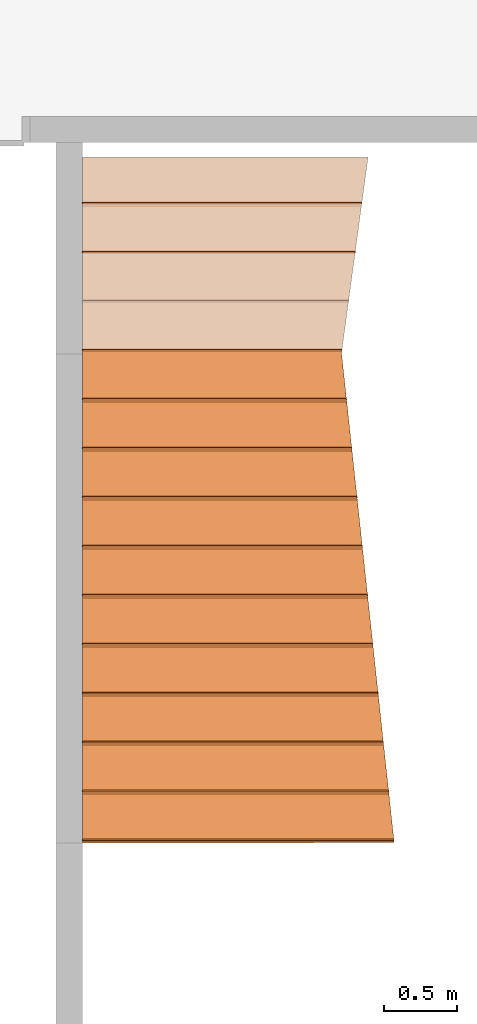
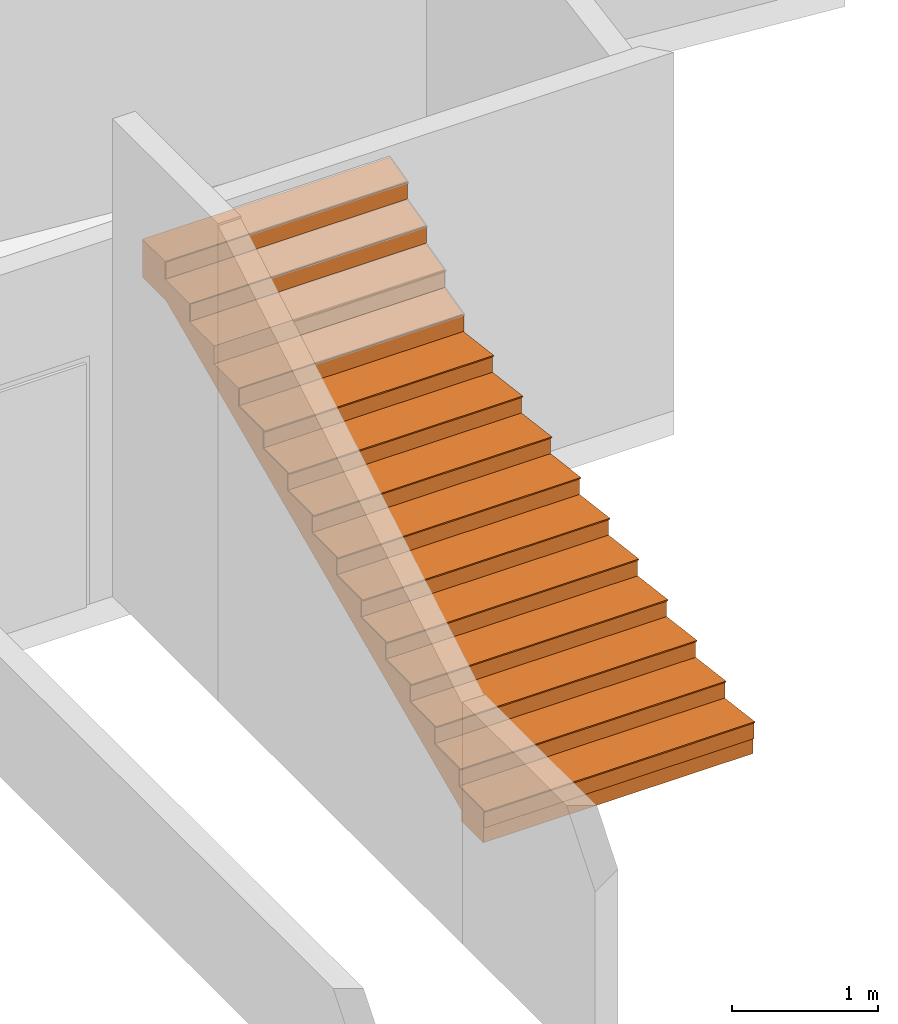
# One storey, part 39 of 41: 24 proxies, 1 element without a shape of its own.
"""IFC2X3 building model written with IfcOpenShell, lengths in millimetres."""

from ifc_helpers import new_model, entity, si_unit, converted_unit, derived_unit, money_unit, direction, frame, origin_with_axes, place, context, subcontext, project, spatial, faceted_brep, material, type_object, element, aggregate, save


model = new_model("IFC2X3")

# Units and contexts
model_context = context("Model", 3, precision=0.01, world=origin_with_axes(), true_north=direction((0.0, 1.0)))
body_context = subcontext(model_context, "Body", "Model", "MODEL_VIEW")
ifc_project = project(units=[si_unit("LENGTHUNIT", "METRE", prefix="MILLI"), si_unit("AREAUNIT", "SQUARE_METRE"), si_unit("VOLUMEUNIT", "CUBIC_METRE"), converted_unit("PLANEANGLEUNIT", "DEGREE", entity("IfcPlaneAngleMeasure", 0.0174532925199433), si_unit("PLANEANGLEUNIT", "RADIAN"), dimensions=[0, 0, 0, 0, 0, 0, 0]), money_unit("USD"), converted_unit("TIMEUNIT", "Year", entity("IfcTimeMeasure", 31557600.0), si_unit("TIMEUNIT", "SECOND"), dimensions=[0, 0, 1, 0, 0, 0, 0]), si_unit("MASSUNIT", "GRAM", prefix="KILO"), si_unit("THERMODYNAMICTEMPERATUREUNIT", "DEGREE_CELSIUS"), si_unit("LUMINOUSINTENSITYUNIT", "LUMEN"), si_unit("ENERGYUNIT", "JOULE", prefix="MEGA"), derived_unit("THERMALCONDUCTANCEUNIT", [(si_unit("POWERUNIT", "WATT"), 1), (si_unit("LENGTHUNIT", "METRE"), -1), (si_unit("THERMODYNAMICTEMPERATUREUNIT", "KELVIN"), -1)]), derived_unit("SPECIFICHEATCAPACITYUNIT", [(si_unit("ENERGYUNIT", "JOULE"), 1), (si_unit("MASSUNIT", "GRAM", prefix="KILO"), -1), (si_unit("THERMODYNAMICTEMPERATUREUNIT", "KELVIN"), -1)]), derived_unit("MASSDENSITYUNIT", [(si_unit("MASSUNIT", "GRAM", prefix="KILO"), 1), (si_unit("VOLUMEUNIT", "CUBIC_METRE"), -1)])], contexts=[model_context])

# Site, building, storey
site_placement = place(None, origin_with_axes())
site = spatial("IfcSite", under=ifc_project, at=site_placement, Name="Site", CompositionType="ELEMENT")
building_placement = place(site_placement, origin_with_axes())
building = spatial("IfcBuilding", under=site, at=building_placement, Name="Bâtiment", CompositionType="ELEMENT")
storey_placement = place(building_placement, origin_with_axes())
storey = spatial("IfcBuildingStorey", under=building, at=storey_placement, Name="sousol", CompositionType="ELEMENT", Elevation=0.0)

# Stair, proxies
stair_placement = place(storey_placement, frame((2242056.657618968, -637489.6648349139, 899.9999999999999), z_axis=(0.0, 0.0, 1.0), x_axis=(1.0, 0.0, 0.0)))
stair = element("IfcStair", 1, at=stair_placement, inside=storey, Name="ESC-021", ShapeType="NOTDEFINED")
ifc_material_1 = material(Name="Cloison 274992075")
building_element_proxy_type = type_object("IfcBuildingElementProxyType", Name="IfcBuildingElementProxy", PredefinedType="NOTDEFINED")
proxy_1_placement = place(stair_placement, frame((1.13686837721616e-10, 0.0, 0.0), z_axis=(0.0, 0.0, 1.0), x_axis=(1.0, 0.0, 0.0)))
proxy_1 = element("IfcBuildingElementProxy", 2, at=proxy_1_placement, type_object=building_element_proxy_type, material=ifc_material_1, Name="VOLEE-023", context=body_context, shape_type="Brep", body=[
    faceted_brep([(0.0, 4364.285714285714, 1764.493136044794), (0.0, 4376.610600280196, 1770.0), (1914.695672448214, 4376.610600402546, 1770.0), (1913.025304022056, 4364.285714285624, 1764.493136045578), (0.0, 4699.999999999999, 1770.0), (0.0, 4280.357142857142, 1726.993136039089), (0.0, 4196.428571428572, 1689.493136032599), (0.0, 4112.5, 1651.993136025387), (0.0, 4028.571428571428, 1614.493136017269), (0.0, 3944.642857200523, 1576.993136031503), (0.0, 3860.714285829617, 1539.493136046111), (0.0, 3776.785714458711, 1501.993136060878), (0.0, 3692.857143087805, 1464.493136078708), (0.0, 3608.928571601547, 1426.993136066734), (0.0, 3525.000000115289, 1389.493136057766), (0.0, 3441.071428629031, 1351.993136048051), (0.0, 3357.142857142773, 1314.493136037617), (0.0, 3273.214285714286, 1276.993136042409), (0.0, 3189.285714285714, 1239.493136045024), (0.0, 3105.357142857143, 1201.993136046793), (-1.014743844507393e-10, 3021.428571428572, 1164.493136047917), (-1.052491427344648e-10, 2937.5, 1126.993136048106), (-1.092459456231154e-10, 2853.571428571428, 1089.493136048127), (-1.13242748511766e-10, 2769.642857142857, 1051.993136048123), (-1.172395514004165e-10, 2685.714285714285, 1014.493136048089), (-1.212363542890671e-10, 2601.785714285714, 976.993136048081), (-1.252331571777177e-10, 2517.857142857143, 939.4931360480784), (-1.292299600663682e-10, 2433.928571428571, 901.993136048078), (-1.332267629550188e-10, 2350.0, 864.4931360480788), (-1.370015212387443e-10, 2266.071428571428, 826.9931360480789), (-1.412203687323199e-10, 2182.142857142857, 789.4931360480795), (-1.449951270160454e-10, 2098.214285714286, 751.9931360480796), (-1.48991929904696e-10, 2014.285714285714, 714.4931360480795), (-1.529887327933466e-10, 1930.357142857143, 676.9931360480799), (-1.569855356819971e-10, 1846.428571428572, 639.4931360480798), (-1.609823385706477e-10, 1762.5, 601.9931360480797), (-1.649791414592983e-10, 1678.571428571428, 564.4931360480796), (-1.689759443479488e-10, 1594.642857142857, 526.9931360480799), (-1.727507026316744e-10, 1510.714285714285, 489.4931360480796), (-1.7696955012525e-10, 1426.785714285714, 451.9931360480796), (-1.807443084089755e-10, 1342.857142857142, 414.4931360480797), (-1.849631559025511e-10, 1258.928571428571, 376.9931360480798), (-1.887379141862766e-10, 1175.0, 339.4931360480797), (-1.927347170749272e-10, 1091.071428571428, 301.9931360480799), (-1.967315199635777e-10, 1007.142857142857, 264.4931360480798), (-2.007283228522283e-10, 923.2142857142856, 226.9931360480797), (-2.047251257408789e-10, 839.285714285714, 189.4931360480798), (-2.087219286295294e-10, 755.3571428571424, 151.9931360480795), (-2.1271873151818e-10, 671.4285714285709, 114.4931360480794), (-2.167155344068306e-10, 587.4999999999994, 76.99313604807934), (-2.204902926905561e-10, 503.5714285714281, 39.49313604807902), (-2.247091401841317e-10, 419.6428571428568, 1.993136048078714), (-2.284838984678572e-10, 335.7142857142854, -35.50686395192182), (-2.273736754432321e-10, 325.1, -40.24941714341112), (-2.273736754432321e-10, 325.1, -129.9999999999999), (-2.273736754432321e-10, 25.10000000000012, -129.9999999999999), (-2.273736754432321e-10, 25.10000000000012, 140.0000000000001), (-2.113864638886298e-10, 360.8142857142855, 140.0000000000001), (-2.113864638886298e-10, 360.8142857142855, 290.0000000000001), (-1.956212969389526e-10, 696.528571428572, 290.0000000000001), (-1.956212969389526e-10, 696.528571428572, 439.9999999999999), (-1.796340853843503e-10, 1032.242857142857, 439.9999999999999), (-1.796340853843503e-10, 1032.242857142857, 589.9999999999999), (-1.638689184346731e-10, 1367.957142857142, 589.9999999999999), (-1.638689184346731e-10, 1367.957142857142, 740.0), (-1.478817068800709e-10, 1703.671428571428, 740.0), (-1.478817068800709e-10, 1703.671428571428, 889.9999999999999), (-1.318944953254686e-10, 2039.385714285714, 889.9999999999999), (-1.318944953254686e-10, 2039.385714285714, 1040.0), (-1.159072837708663e-10, 2375.099999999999, 1040.0), (-1.159072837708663e-10, 2375.099999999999, 1190.0), (-1.001421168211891e-10, 2710.814285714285, 1190.0), (-1.001421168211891e-10, 2710.814285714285, 1340.0), (0.0, 3046.528571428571, 1340.0), (0.0, 3046.528571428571, 1490.0), (0.0, 3382.242857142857, 1490.0), (0.0, 3382.242857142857, 1640.0), (0.0, 3717.957142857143, 1640.0), (0.0, 3717.957142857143, 1790.0), (0.0, 4053.671428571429, 1790.0), (0.0, 4053.671428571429, 1940.0), (0.0, 4389.385714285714, 1940.0), (0.0, 4389.385714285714, 2090.0), (0.0, 4699.999999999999, 2090.0), (0.0, 4699.999999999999, 1914.493136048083), (1958.524053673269, 4699.999999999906, 1770.0), (1958.524053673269, 4699.999999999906, 1914.493136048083), (1958.524053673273, 4699.999999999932, 2090.0), (1916.427060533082, 4389.385714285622, 2090.0), (1916.427060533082, 4389.385714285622, 1940.0), (1870.928309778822, 4053.671428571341, 1940.0), (1870.928309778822, 4053.671428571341, 1790.0), (1825.429558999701, 3717.957142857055, 1790.0), (1825.429558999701, 3717.957142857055, 1640.0), (1779.930803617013, 3382.242857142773, 1640.0), (1779.930803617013, 3382.242857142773, 1490.0), (1776.529044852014, 3357.142857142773, 1490.0), (1776.529062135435, 3357.142857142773, 1314.493136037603), (1787.903753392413, 3441.071428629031, 1351.993136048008), (1799.278442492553, 3525.000000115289, 1389.493136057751), (1810.653131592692, 3608.928571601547, 1426.993136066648), (1822.02781147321, 3692.857143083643, 1464.493136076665), (1833.402499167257, 3776.785714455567, 1501.993136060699), (1844.777186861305, 3860.714285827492, 1539.493136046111), (1856.151874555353, 3944.642857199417, 1576.993136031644), (1867.526553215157, 4028.571428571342, 1614.493136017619), (1878.901240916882, 4112.499999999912, 1651.993136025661), (1890.275928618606, 4196.428571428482, 1689.493136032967), (1901.650616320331, 4280.357142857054, 1726.993136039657), (1785.552685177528, 3273.214285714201, 1276.993136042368), (1794.576308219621, 3189.285714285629, 1239.493136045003), (1803.599931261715, 3105.357142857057, 1201.993136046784), (1812.623542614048, 3021.428571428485, 1164.493136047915), (1821.647165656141, 2937.499999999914, 1126.993136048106), (1830.670788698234, 2853.571428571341, 1089.493136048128), (1839.694411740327, 2769.642857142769, 1051.993136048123), (1848.71803478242, 2685.714285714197, 1014.493136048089), (1857.741660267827, 2601.785714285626, 976.993136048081), (1866.76528330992, 2517.857142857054, 939.4931360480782), (1875.788906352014, 2433.928571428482, 901.993136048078), (1884.812526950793, 2349.99999999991, 864.4931360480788), (1893.836149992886, 2266.071428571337, 826.9931360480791), (1902.859773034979, 2182.142857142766, 789.4931360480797), (1911.883396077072, 2098.214285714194, 751.9931360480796), (1920.907019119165, 2014.285714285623, 714.4931360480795), (1929.930649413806, 1930.357142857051, 676.9931360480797), (1938.954272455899, 1846.428571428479, 639.4931360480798), (1947.977895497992, 1762.499999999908, 601.9931360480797), (1957.001511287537, 1678.571428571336, 564.49313604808), (1966.02513432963, 1594.642857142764, 526.9931360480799), (1975.048757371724, 1510.714285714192, 489.4931360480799), (1984.072380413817, 1426.78571428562, 451.9931360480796), (1993.09600345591, 1342.857142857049, 414.4931360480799), (2002.119626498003, 1258.928571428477, 376.9931360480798), (2011.143249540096, 1174.999999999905, 339.4931360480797), (2020.166872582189, 1091.071428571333, 301.9931360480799), (2029.190506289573, 1007.142857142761, 264.4931360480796), (2038.214129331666, 923.2142857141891, 226.9931360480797), (2047.23775237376, 839.2857142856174, 189.4931360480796), (2056.261375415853, 755.3571428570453, 151.9931360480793), (2065.284989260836, 671.4285714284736, 114.493136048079), (2074.308612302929, 587.4999999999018, 76.99313604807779), (2083.332235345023, 503.5714285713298, 39.49313604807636), (2092.355858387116, 419.6428571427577, 1.993136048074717), (2101.379479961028, 335.714285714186, -35.50686395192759), (2102.520681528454, 325.0999999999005, -40.24941714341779), (2102.520681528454, 325.0999999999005, -129.9999999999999), (2134.775332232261, 25.09999999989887, -129.9999999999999), (2134.775332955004, 25.09999999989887, 140.0000000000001), (2098.680841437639, 360.814285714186, 140.0000000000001), (2098.680841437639, 360.814285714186, 290.0000000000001), (2062.586348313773, 696.5285714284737, 290.0000000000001), (2062.586348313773, 696.5285714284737, 439.9999999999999), (2026.491855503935, 1032.242857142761, 439.9999999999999), (2026.491855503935, 1032.242857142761, 589.9999999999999), (1990.397364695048, 1367.957142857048, 589.9999999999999), (1990.397364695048, 1367.957142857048, 740.0), (1954.302871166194, 1703.671428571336, 740.0), (1954.302871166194, 1703.671428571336, 889.9999999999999), (1918.208380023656, 2039.385714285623, 889.9999999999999), (1918.208380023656, 2039.385714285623, 1040.0), (1882.113887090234, 2375.099999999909, 1040.0), (1882.113887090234, 2375.099999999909, 1190.0), (1846.019396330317, 2710.814285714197, 1190.0), (1846.019396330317, 2710.814285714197, 1340.0), (1809.924903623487, 3046.528571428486, 1340.0), (1809.924903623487, 3046.528571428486, 1490.0)], [[[0, 1, 2, 3]], [[4, 1, 0, 5, 6, 7, 8, 9, 10, 11, 12, 13, 14, 15, 16, 17, 18, 19, 20, 21, 22, 23, 24, 25, 26, 27, 28, 29, 30, 31, 32, 33, 34, 35, 36, 37, 38, 39, 40, 41, 42, 43, 44, 45, 46, 47, 48, 49, 50, 51, 52, 53, 54, 55, 56, 57, 58, 59, 60, 61, 62, 63, 64, 65, 66, 67, 68, 69, 70, 71, 72, 73, 74, 75, 76, 77, 78, 79, 80, 81, 82, 83, 84]], [[2, 1, 4, 85]], [[2, 85, 86, 87, 88, 89, 90, 91, 92, 93, 94, 95, 96, 97, 98, 99, 100, 101, 102, 103, 104, 105, 106, 107, 108, 3]], [[5, 0, 3, 108]], [[6, 5, 108, 107]], [[7, 6, 107, 106]], [[8, 7, 106, 105]], [[9, 8, 105, 104]], [[10, 9, 104, 103]], [[11, 10, 103, 102]], [[12, 11, 102, 101]], [[13, 12, 101, 100]], [[14, 13, 100, 99]], [[15, 14, 99, 98]], [[16, 15, 98, 97]], [[17, 16, 97, 109]], [[18, 17, 109, 110]], [[19, 18, 110, 111]], [[20, 19, 111, 112]], [[21, 20, 112, 113]], [[22, 21, 113, 114]], [[23, 22, 114, 115]], [[24, 23, 115, 116]], [[25, 24, 116, 117]], [[26, 25, 117, 118]], [[27, 26, 118, 119]], [[28, 27, 119, 120]], [[29, 28, 120, 121]], [[30, 29, 121, 122]], [[31, 30, 122, 123]], [[32, 31, 123, 124]], [[33, 32, 124, 125]], [[34, 33, 125, 126]], [[35, 34, 126, 127]], [[36, 35, 127, 128]], [[37, 36, 128, 129]], [[38, 37, 129, 130]], [[39, 38, 130, 131]], [[40, 39, 131, 132]], [[41, 40, 132, 133]], [[42, 41, 133, 134]], [[43, 42, 134, 135]], [[44, 43, 135, 136]], [[45, 44, 136, 137]], [[46, 45, 137, 138]], [[47, 46, 138, 139]], [[48, 47, 139, 140]], [[49, 48, 140, 141]], [[50, 49, 141, 142]], [[51, 50, 142, 143]], [[52, 51, 143, 144]], [[145, 53, 52, 144]], [[53, 145, 146, 54]], [[54, 146, 147, 55]], [[56, 55, 147, 148]], [[149, 57, 56, 148]], [[150, 58, 57, 149]], [[151, 59, 58, 150]], [[152, 60, 59, 151]], [[153, 61, 60, 152]], [[154, 62, 61, 153]], [[155, 63, 62, 154]], [[156, 64, 63, 155]], [[157, 65, 64, 156]], [[158, 66, 65, 157]], [[159, 67, 66, 158]], [[160, 68, 67, 159]], [[161, 69, 68, 160]], [[162, 70, 69, 161]], [[163, 71, 70, 162]], [[164, 72, 71, 163]], [[165, 73, 72, 164]], [[166, 74, 73, 165]], [[74, 166, 96, 95, 75]], [[94, 76, 75, 95]], [[77, 76, 94, 93]], [[92, 78, 77, 93]], [[79, 78, 92, 91]], [[90, 80, 79, 91]], [[81, 80, 90, 89]], [[88, 82, 81, 89]], [[88, 87, 83, 82]], [[83, 87, 86, 84]], [[85, 4, 84, 86]], [[149, 148, 147, 146, 145, 144, 143, 142, 141, 140, 139, 138, 137, 136, 135, 134, 133, 132, 131, 130, 129, 128, 127, 126, 125, 124, 123, 122, 121, 120, 119, 118, 117, 116, 115, 114, 113, 112, 111, 110, 109, 97, 96, 166, 165, 164, 163, 162, 161, 160, 159, 158, 157, 156, 155, 154, 153, 152, 151, 150]]]),
])
ifc_material_2 = material(Name="Lame d'air 275581351")
proxy_2_placement = place(stair_placement, frame((699.9999999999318, 0.0, 139.9999999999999), z_axis=(0.0, 0.0, 1.0), x_axis=(1.0, 0.0, 0.0)))
proxy_2 = element("IfcBuildingElementProxy", 3, at=proxy_2_placement, type_object=building_element_proxy_type, material=ifc_material_2, Name="C-MARCHE-350", context=body_context, shape_type="Brep", body=[
    faceted_brep([(1435.861239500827, 15.0, 0.0), (1434.78608441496, 25.0, 0.0), (-700.0, 25.0, 0.0), (-700.0, 15.0, 0.0), (1435.861239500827, 15.00000000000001, -140.0), (1434.78608441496, 25.00000000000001, -140.0), (-700.0, 25.00000000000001, -140.0), (-700.0, 15.00000000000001, -140.0)], [[[0, 1, 2, 3]], [[0, 4, 5, 1]], [[1, 5, 6, 2]], [[3, 2, 6, 7]], [[4, 0, 3, 7]], [[5, 4, 7, 6]]]),
])
proxy_3_placement = place(stair_placement, frame((699.9999999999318, 335.7142857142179, 290.0000000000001), z_axis=(0.0, 0.0, 1.0), x_axis=(1.0, 0.0, 0.0)))
proxy_3 = element("IfcBuildingElementProxy", 4, at=proxy_3_placement, type_object=building_element_proxy_type, material=ifc_material_2, Name="C-MARCHE-351", context=body_context, shape_type="Brep", body=[
    faceted_brep([(1399.766747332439, 15.00000000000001, 0.0), (1398.691592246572, 25.00000000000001, 0.0), (-700.0, 24.99999999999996, 0.0), (-700.0, 14.99999999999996, 0.0), (1399.766747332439, 15.00000000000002, -140.0), (1398.691592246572, 25.00000000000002, -140.0), (-700.0, 24.99999999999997, -140.0), (-700.0, 14.99999999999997, -140.0)], [[[0, 1, 2, 3]], [[0, 4, 5, 1]], [[1, 5, 6, 2]], [[3, 2, 6, 7]], [[4, 0, 3, 7]], [[5, 4, 7, 6]]]),
])
proxy_4_placement = place(stair_placement, frame((699.9999999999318, 671.4285714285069, 439.9999999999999), z_axis=(0.0, 0.0, 1.0), x_axis=(1.0, 0.0, 0.0)))
proxy_4 = element("IfcBuildingElementProxy", 5, at=proxy_4_placement, type_object=building_element_proxy_type, material=ifc_material_2, Name="C-MARCHE-352", context=body_context, shape_type="Brep", body=[
    faceted_brep([(1363.672255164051, 15.00000000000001, 0.0), (1362.597100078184, 25.00000000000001, 0.0), (-699.9999999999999, 25.00000000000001, 0.0), (-699.9999999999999, 15.00000000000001, 0.0), (1363.672255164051, 15.00000000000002, -140.0), (1362.597100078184, 25.00000000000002, -140.0), (-699.9999999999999, 25.00000000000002, -140.0), (-699.9999999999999, 15.00000000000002, -140.0)], [[[0, 1, 2, 3]], [[0, 4, 5, 1]], [[1, 5, 6, 2]], [[3, 2, 6, 7]], [[4, 0, 3, 7]], [[5, 4, 7, 6]]]),
])
proxy_5_placement = place(stair_placement, frame((699.9999999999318, 1342.857142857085, 740.0), z_axis=(0.0, 0.0, 1.0), x_axis=(1.0, 0.0, 0.0)))
proxy_5 = element("IfcBuildingElementProxy", 6, at=proxy_5_placement, type_object=building_element_proxy_type, material=ifc_material_2, Name="C-MARCHE-354", context=body_context, shape_type="Brep", body=[
    faceted_brep([(1291.483270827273, 14.9999999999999, 0.0), (1290.408115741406, 24.9999999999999, 0.0), (-700.0, 24.9999999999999, 0.0), (-700.0, 14.9999999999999, 0.0), (1291.483270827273, 14.99999999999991, -140.0), (1290.408115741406, 24.99999999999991, -140.0), (-700.0, 24.99999999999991, -140.0), (-700.0, 14.99999999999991, -140.0)], [[[0, 1, 2, 3]], [[0, 4, 5, 1]], [[1, 5, 6, 2]], [[3, 2, 6, 7]], [[4, 0, 3, 7]], [[5, 4, 7, 6]]]),
])
proxy_6_placement = place(stair_placement, frame((699.9999999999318, 1678.571428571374, 889.9999999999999), z_axis=(0.0, 0.0, 1.0), x_axis=(1.0, 0.0, 0.0)))
proxy_6 = element("IfcBuildingElementProxy", 7, at=proxy_6_placement, type_object=building_element_proxy_type, material=ifc_material_2, Name="C-MARCHE-355", context=body_context, shape_type="Brep", body=[
    faceted_brep([(1255.388778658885, 14.99999999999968, 0.0), (1254.313623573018, 24.99999999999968, 0.0), (-699.9999999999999, 24.99999999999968, 0.0), (-699.9999999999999, 14.99999999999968, 0.0), (1255.388778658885, 14.99999999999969, -139.9999999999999), (1254.313623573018, 24.99999999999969, -139.9999999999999), (-699.9999999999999, 24.99999999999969, -139.9999999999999), (-699.9999999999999, 14.99999999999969, -139.9999999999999)], [[[0, 1, 2, 3]], [[0, 4, 5, 1]], [[1, 5, 6, 2]], [[3, 2, 6, 7]], [[4, 0, 3, 7]], [[5, 4, 7, 6]]]),
])
proxy_7_placement = place(stair_placement, frame((699.9999999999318, 2014.285714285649, 1040.0), z_axis=(0.0, 0.0, 1.0), x_axis=(1.0, 0.0, 0.0)))
proxy_7 = element("IfcBuildingElementProxy", 8, at=proxy_7_placement, type_object=building_element_proxy_type, material=ifc_material_2, Name="C-MARCHE-356", context=body_context, shape_type="Brep", body=[
    faceted_brep([(1219.294286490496, 15.00000000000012, 0.0), (1218.219131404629, 25.00000000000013, 0.0), (-700.0, 24.99999999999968, 0.0), (-700.0, 14.99999999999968, 0.0), (1219.294286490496, 15.00000000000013, -140.0000000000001), (1218.219131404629, 25.00000000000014, -140.0000000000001), (-700.0, 24.99999999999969, -140.0000000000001), (-700.0, 14.99999999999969, -140.0000000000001)], [[[0, 1, 2, 3]], [[0, 4, 5, 1]], [[1, 5, 6, 2]], [[3, 2, 6, 7]], [[4, 0, 3, 7]], [[5, 4, 7, 6]]]),
])
proxy_8_placement = place(stair_placement, frame((700.0000000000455, 2349.999999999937, 1190.0), z_axis=(0.0, 0.0, 1.0), x_axis=(1.0, 0.0, 0.0)))
proxy_8 = element("IfcBuildingElementProxy", 9, at=proxy_8_placement, type_object=building_element_proxy_type, material=ifc_material_2, Name="C-MARCHE-357", context=body_context, shape_type="Brep", body=[
    faceted_brep([(1183.199794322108, 15.00000000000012, 0.0), (1182.124639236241, 25.00000000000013, 0.0), (-700.0, 25.00000000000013, 0.0), (-700.0, 15.00000000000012, 0.0), (1183.199794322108, 15.00000000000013, -139.9999999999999), (1182.124639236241, 25.00000000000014, -139.9999999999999), (-700.0, 25.00000000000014, -139.9999999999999), (-700.0, 15.00000000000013, -139.9999999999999)], [[[0, 1, 2, 3]], [[0, 4, 5, 1]], [[1, 5, 6, 2]], [[3, 2, 6, 7]], [[4, 0, 3, 7]], [[5, 4, 7, 6]]]),
])
proxy_9_placement = place(stair_placement, frame((700.0000000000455, 2685.714285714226, 1340.0), z_axis=(0.0, 0.0, 1.0), x_axis=(1.0, 0.0, 0.0)))
proxy_9 = element("IfcBuildingElementProxy", 10, at=proxy_9_placement, type_object=building_element_proxy_type, material=ifc_material_2, Name="C-MARCHE-358", context=body_context, shape_type="Brep", body=[
    faceted_brep([(1147.10530215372, 14.99999999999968, 0.0), (1146.030147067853, 24.99999999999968, 0.0), (-700.0, 25.00000000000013, 0.0), (-700.0, 15.00000000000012, 0.0), (1147.10530215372, 14.99999999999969, -139.9999999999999), (1146.030147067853, 24.99999999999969, -139.9999999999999), (-700.0, 25.00000000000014, -139.9999999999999), (-700.0, 15.00000000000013, -139.9999999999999)], [[[0, 1, 2, 3]], [[0, 4, 5, 1]], [[1, 5, 6, 2]], [[3, 2, 6, 7]], [[4, 0, 3, 7]], [[5, 4, 7, 6]]]),
])
proxy_10_placement = place(stair_placement, frame((700.0000000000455, 3021.428571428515, 1490.0), z_axis=(0.0, 0.0, 1.0), x_axis=(1.0, 0.0, 0.0)))
proxy_10 = element("IfcBuildingElementProxy", 11, at=proxy_10_placement, type_object=building_element_proxy_type, material=ifc_material_2, Name="C-MARCHE-359", context=body_context, shape_type="Brep", body=[
    faceted_brep([(1111.010809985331, 14.99999999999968, 0.0), (1109.935654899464, 24.99999999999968, 0.0), (-700.0, 25.00000000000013, 0.0), (-700.0, 15.00000000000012, 0.0), (1111.010809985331, 14.99999999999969, -140.0000000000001), (1109.935654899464, 24.99999999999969, -140.0000000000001), (-700.0, 25.00000000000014, -140.0000000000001), (-700.0, 15.00000000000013, -140.0000000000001)], [[[0, 1, 2, 3]], [[0, 4, 5, 1]], [[1, 5, 6, 2]], [[3, 2, 6, 7]], [[4, 0, 3, 7]], [[5, 4, 7, 6]]]),
])
proxy_11_placement = place(stair_placement, frame((700.0000000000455, 3357.14285714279, 1640.0), z_axis=(0.0, 0.0, 1.0), x_axis=(1.0, 0.0, 0.0)))
proxy_11 = element("IfcBuildingElementProxy", 12, at=proxy_11_placement, type_object=building_element_proxy_type, material=ifc_material_2, Name="C-MARCHE-360", context=body_context, shape_type="Brep", body=[
    faceted_brep([(1078.561973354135, 15.00000000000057, 0.0), (1079.917255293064, 25.00000000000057, 0.0), (-699.9999999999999, 25.00000000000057, 0.0), (-699.9999999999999, 15.00000000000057, 0.0), (1078.561973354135, 15.00000000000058, -139.9999999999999), (1079.917255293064, 25.00000000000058, -139.9999999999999), (-699.9999999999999, 25.00000000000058, -139.9999999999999), (-699.9999999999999, 15.00000000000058, -139.9999999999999)], [[[0, 1, 2, 3]], [[0, 4, 5, 1]], [[1, 5, 6, 2]], [[3, 2, 6, 7]], [[4, 0, 3, 7]], [[5, 4, 7, 6]]]),
])
proxy_12_placement = place(stair_placement, frame((700.0000000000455, 4028.571428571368, 1940.0), z_axis=(0.0, 0.0, 1.0), x_axis=(1.0, 0.0, 0.0)))
proxy_12 = element("IfcBuildingElementProxy", 13, at=proxy_12_placement, type_object=building_element_proxy_type, material=ifc_material_2, Name="C-MARCHE-362", context=body_context, shape_type="Brep", body=[
    faceted_brep([(1169.559474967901, 14.99999999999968, 0.0), (1170.91475690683, 24.99999999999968, 0.0), (-700.0, 24.99999999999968, 0.0), (-700.0, 14.99999999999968, 0.0), (1169.559474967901, 14.99999999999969, -140.0000000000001), (1170.91475690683, 24.99999999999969, -140.0000000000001), (-700.0, 24.99999999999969, -140.0000000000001), (-700.0, 14.99999999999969, -140.0000000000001)], [[[0, 1, 2, 3]], [[0, 4, 5, 1]], [[1, 5, 6, 2]], [[3, 2, 6, 7]], [[4, 0, 3, 7]], [[5, 4, 7, 6]]]),
])
proxy_13_placement = place(stair_placement, frame((700.0000000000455, 4364.285714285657, 2090.0), z_axis=(0.0, 0.0, 1.0), x_axis=(1.0, 0.0, 0.0)))
proxy_13 = element("IfcBuildingElementProxy", 14, at=proxy_13_placement, type_object=building_element_proxy_type, material=ifc_material_2, Name="C-MARCHE-363", context=body_context, shape_type="Brep", body=[
    faceted_brep([(1215.058225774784, 14.99999999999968, 0.0), (1216.413507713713, 24.99999999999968, 0.0), (-700.0, 24.9999999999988, 0.0), (-700.0, 14.99999999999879, 0.0), (1215.058225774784, 14.99999999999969, -140.0000000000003), (1216.413507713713, 24.99999999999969, -140.0000000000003), (-700.0, 24.9999999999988, -140.0000000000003), (-700.0, 14.9999999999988, -140.0000000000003)], [[[0, 1, 2, 3]], [[0, 4, 5, 1]], [[1, 5, 6, 2]], [[3, 2, 6, 7]], [[4, 0, 3, 7]], [[5, 4, 7, 6]]]),
])
proxy_14_placement = place(stair_placement, frame((699.9999999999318, 0.0, 149.9999999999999), z_axis=(0.0, 0.0, 1.0), x_axis=(1.0, 0.0, 0.0)))
proxy_14 = element("IfcBuildingElementProxy", 15, at=proxy_14_placement, type_object=building_element_proxy_type, material=ifc_material_2, Name="MARCHE-350", context=body_context, shape_type="Brep", body=[
    faceted_brep([(-495.5455956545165, 0.0, -10.0), (700.0000000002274, 0.0, -10.0), (700.0000000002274, 0.0, 0.0), (-495.5455956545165, 0.0, 0.0), (-700.0, 0.0, -10.0), (-700.0, 360.714286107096, -10.0), (1398.691592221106, 360.7142859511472, -10.0), (1437.163225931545, 2.890245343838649, -10.0), (1437.163225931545, 2.890245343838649, 0.0), (1398.691592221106, 360.7142859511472, 0.0), (-700.0, 360.714286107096, 0.0), (-700.0, 0.0, 0.0)], [[[0, 1, 2, 3]], [[0, 4, 5, 6, 7, 1]], [[1, 7, 8, 2]], [[3, 2, 8, 9, 10, 11]], [[4, 0, 3, 11]], [[5, 4, 11, 10]], [[6, 5, 10, 9]], [[7, 6, 9, 8]]]),
])
proxy_15_placement = place(stair_placement, frame((699.9999999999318, 335.7142857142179, 300.0000000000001), z_axis=(0.0, 0.0, 1.0), x_axis=(1.0, 0.0, 0.0)))
proxy_15 = element("IfcBuildingElementProxy", 16, at=proxy_15_placement, type_object=building_element_proxy_type, material=ifc_material_2, Name="MARCHE-351", context=body_context, shape_type="Brep", body=[
    faceted_brep([(-700.0, 0.0, -10.0), (1401.379479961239, 0.0, -10.0), (1401.379479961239, 0.0, 0.0), (-700.0, 0.0, 0.0), (-700.0, 360.7142966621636, -10.0), (1362.597099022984, 360.7142955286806, -10.0), (1362.597099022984, 360.7142955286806, 0.0), (-700.0, 360.7142966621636, 0.0)], [[[0, 1, 2, 3]], [[0, 4, 5, 1]], [[1, 5, 6, 2]], [[3, 2, 6, 7]], [[4, 0, 3, 7]], [[5, 4, 7, 6]]]),
])
proxy_16_placement = place(stair_placement, frame((699.9999999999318, 671.4285714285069, 449.9999999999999), z_axis=(0.0, 0.0, 1.0), x_axis=(1.0, 0.0, 0.0)))
proxy_16 = element("IfcBuildingElementProxy", 17, at=proxy_16_placement, type_object=building_element_proxy_type, material=ifc_material_2, Name="MARCHE-352", context=body_context, shape_type="Brep", body=[
    faceted_brep([(-699.9999999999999, 0.0, -10.0), (1365.284987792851, 0.0, -10.0), (1365.284987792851, 0.0, 0.0), (-699.9999999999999, 0.0, 0.0), (-699.9999999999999, 360.7142740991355, -10.0), (1326.502609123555, 360.7142744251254, -10.0), (1326.502609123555, 360.7142744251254, 0.0), (-699.9999999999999, 360.7142740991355, 0.0)], [[[0, 1, 2, 3]], [[0, 4, 5, 1]], [[1, 5, 6, 2]], [[3, 2, 6, 7]], [[4, 0, 3, 7]], [[5, 4, 7, 6]]]),
])
proxy_17_placement = place(stair_placement, frame((699.9999999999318, 1007.142857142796, 600.0000000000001), z_axis=(0.0, 0.0, 1.0), x_axis=(1.0, 0.0, 0.0)))
proxy_17 = element("IfcBuildingElementProxy", 18, at=proxy_17_placement, type_object=building_element_proxy_type, material=ifc_material_2, Name="MARCHE-353", context=body_context, shape_type="Brep", body=[
    faceted_brep([(-700.0, 0.0, -10.0), (1329.190495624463, 0.0, -10.0), (1329.190495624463, 0.0, 0.0), (-700.0, 0.0, 0.0), (-700.0, 360.714276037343, -10.0), (1290.408116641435, 360.7142773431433, -10.0), (1290.408116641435, 360.7142773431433, 0.0), (-700.0, 360.714276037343, 0.0)], [[[0, 1, 2, 3]], [[0, 4, 5, 1]], [[1, 5, 6, 2]], [[3, 2, 6, 7]], [[4, 0, 3, 7]], [[5, 4, 7, 6]]]),
])
proxy_18_placement = place(stair_placement, frame((699.9999999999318, 1342.857142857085, 750.0), z_axis=(0.0, 0.0, 1.0), x_axis=(1.0, 0.0, 0.0)))
proxy_18 = element("IfcBuildingElementProxy", 19, at=proxy_18_placement, type_object=building_element_proxy_type, material=ifc_material_2, Name="MARCHE-354", context=body_context, shape_type="Brep", body=[
    faceted_brep([(-700.0, 0.0, -10.0), (1293.096003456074, 0.0, -10.0), (1293.096003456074, 0.0, 0.0), (-700.0, 0.0, 0.0), (-699.9999999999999, 360.7142977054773, -10.0), (1254.313622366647, 360.7142969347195, -10.0), (1254.313622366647, 360.7142969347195, 0.0), (-699.9999999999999, 360.7142977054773, 0.0)], [[[0, 1, 2, 3]], [[0, 4, 5, 1]], [[1, 5, 6, 2]], [[3, 2, 6, 7]], [[4, 0, 3, 7]], [[5, 4, 7, 6]]]),
])
proxy_19_placement = place(stair_placement, frame((699.9999999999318, 1007.142857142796, 589.9999999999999), z_axis=(0.0, 0.0, 1.0), x_axis=(1.0, 0.0, 0.0)))
proxy_19 = element("IfcBuildingElementProxy", 20, at=proxy_19_placement, type_object=building_element_proxy_type, material=ifc_material_2, Name="C-MARCHE-353", context=body_context, shape_type="Brep", body=[
    faceted_brep([(1327.577762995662, 14.9999999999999, 0.0), (1326.502607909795, 24.9999999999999, 0.0), (-700.0, 24.9999999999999, 0.0), (-700.0, 14.9999999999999, 0.0), (1327.577762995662, 14.99999999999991, -140.0), (1326.502607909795, 24.99999999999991, -140.0), (-700.0, 24.99999999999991, -140.0), (-700.0, 14.99999999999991, -140.0)], [[[0, 1, 2, 3]], [[0, 4, 5, 1]], [[1, 5, 6, 2]], [[3, 2, 6, 7]], [[4, 0, 3, 7]], [[5, 4, 7, 6]]]),
])
proxy_20_placement = place(stair_placement, frame((699.9999999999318, 2014.285714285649, 1050.0), z_axis=(0.0, 0.0, 1.0), x_axis=(1.0, 0.0, 0.0)))
proxy_20 = element("IfcBuildingElementProxy", 21, at=proxy_20_placement, type_object=building_element_proxy_type, material=ifc_material_2, Name="MARCHE-356", context=body_context, shape_type="Brep", body=[
    faceted_brep([(-700.0, 0.0, -10.0), (1220.907019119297, 0.0, -10.0), (1220.907019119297, 0.0, 0.0), (-700.0, 0.0, 0.0), (-700.0000000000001, 360.7142898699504, -10.0), (1182.124638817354, 360.7142896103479, -10.0), (1182.124638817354, 360.7142896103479, 0.0), (-700.0000000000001, 360.7142898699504, 0.0)], [[[0, 1, 2, 3]], [[0, 4, 5, 1]], [[1, 5, 6, 2]], [[3, 2, 6, 7]], [[4, 0, 3, 7]], [[5, 4, 7, 6]]]),
])
proxy_21_placement = place(stair_placement, frame((700.0000000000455, 2685.714285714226, 1350.0), z_axis=(0.0, 0.0, 1.0), x_axis=(1.0, 0.0, 0.0)))
proxy_21 = element("IfcBuildingElementProxy", 22, at=proxy_21_placement, type_object=building_element_proxy_type, material=ifc_material_2, Name="MARCHE-358", context=body_context, shape_type="Brep", body=[
    faceted_brep([(-700.0, 0.0, -10.0), (1148.71803478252, 0.0, -10.0), (1148.71803478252, 0.0, 0.0), (-700.0, 0.0, 0.0), (-700.0000000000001, 360.714285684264, -10.0), (1109.935655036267, 360.7142844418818, -10.0), (1109.935655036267, 360.7142844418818, 0.0), (-700.0000000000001, 360.714285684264, 0.0)], [[[0, 1, 2, 3]], [[0, 4, 5, 1]], [[1, 5, 6, 2]], [[3, 2, 6, 7]], [[4, 0, 3, 7]], [[5, 4, 7, 6]]]),
])
proxy_22_placement = place(stair_placement, frame((700.0000000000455, 3021.428571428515, 1500.0), z_axis=(0.0, 0.0, 1.0), x_axis=(1.0, 0.0, 0.0)))
proxy_22 = element("IfcBuildingElementProxy", 23, at=proxy_22_placement, type_object=building_element_proxy_type, material=ifc_material_2, Name="MARCHE-359", context=body_context, shape_type="Brep", body=[
    faceted_brep([(-700.0, 0.0, -10.0), (1112.623542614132, 0.0, -10.0), (1112.623542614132, 0.0, 0.0), (-700.0, 0.0, 0.0), (-700.0, 360.7142944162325, -10.0), (1079.917256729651, 360.714296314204, -10.0), (1076.529050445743, 335.714285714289, -10.0), (1076.529050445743, 335.714285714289, 0.0), (1079.917256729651, 360.714296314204, 0.0), (-700.0, 360.7142944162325, 0.0)], [[[0, 1, 2, 3]], [[0, 4, 5, 6, 1]], [[1, 6, 7, 2]], [[3, 2, 7, 8, 9]], [[4, 0, 3, 9]], [[5, 4, 9, 8]], [[6, 5, 8, 7]]]),
])
proxy_23_placement = place(stair_placement, frame((700.0000000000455, 2349.999999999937, 1200.0), z_axis=(0.0, 0.0, 1.0), x_axis=(1.0, 0.0, 0.0)))
proxy_23 = element("IfcBuildingElementProxy", 24, at=proxy_23_placement, type_object=building_element_proxy_type, material=ifc_material_2, Name="MARCHE-357", context=body_context, shape_type="Brep", body=[
    faceted_brep([(-699.9999999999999, 0.0, -10.0), (1184.812526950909, 0.0, -10.0), (1184.812526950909, 0.0, 0.0), (-699.9999999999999, 0.0, 0.0), (-700.0, 360.7142939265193, -10.0), (1146.030146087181, 360.7142948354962, -10.0), (1146.030146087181, 360.7142948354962, 0.0), (-700.0, 360.7142939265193, 0.0)], [[[0, 1, 2, 3]], [[0, 4, 5, 1]], [[1, 5, 6, 2]], [[3, 2, 6, 7]], [[4, 0, 3, 7]], [[5, 4, 7, 6]]]),
])
proxy_24_placement = place(stair_placement, frame((699.9999999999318, 1678.571428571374, 899.9999999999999), z_axis=(0.0, 0.0, 1.0), x_axis=(1.0, 0.0, 0.0)))
proxy_24 = element("IfcBuildingElementProxy", 25, at=proxy_24_placement, type_object=building_element_proxy_type, material=ifc_material_2, Name="MARCHE-355", context=body_context, shape_type="Brep", body=[
    faceted_brep([(-699.9999999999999, 0.0, -10.0), (1257.001511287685, 0.0, -10.0), (1257.001511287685, 0.0, 0.0), (-699.9999999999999, 0.0, 0.0), (-699.9999999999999, 360.7142848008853, -10.0), (1218.219131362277, 360.7142861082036, -10.0), (1218.219131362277, 360.7142861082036, 0.0), (-699.9999999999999, 360.7142848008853, 0.0)], [[[0, 1, 2, 3]], [[0, 4, 5, 1]], [[1, 5, 6, 2]], [[3, 2, 6, 7]], [[4, 0, 3, 7]], [[5, 4, 7, 6]]]),
])
aggregate(stair, [proxy_1, proxy_2, proxy_3, proxy_4, proxy_5, proxy_6, proxy_7, proxy_8, proxy_9, proxy_10, proxy_11, proxy_12, proxy_13, proxy_14, proxy_15, proxy_16, proxy_17, proxy_18, proxy_19, proxy_20, proxy_21, proxy_22, proxy_23, proxy_24])

save(model, "model.ifc")
